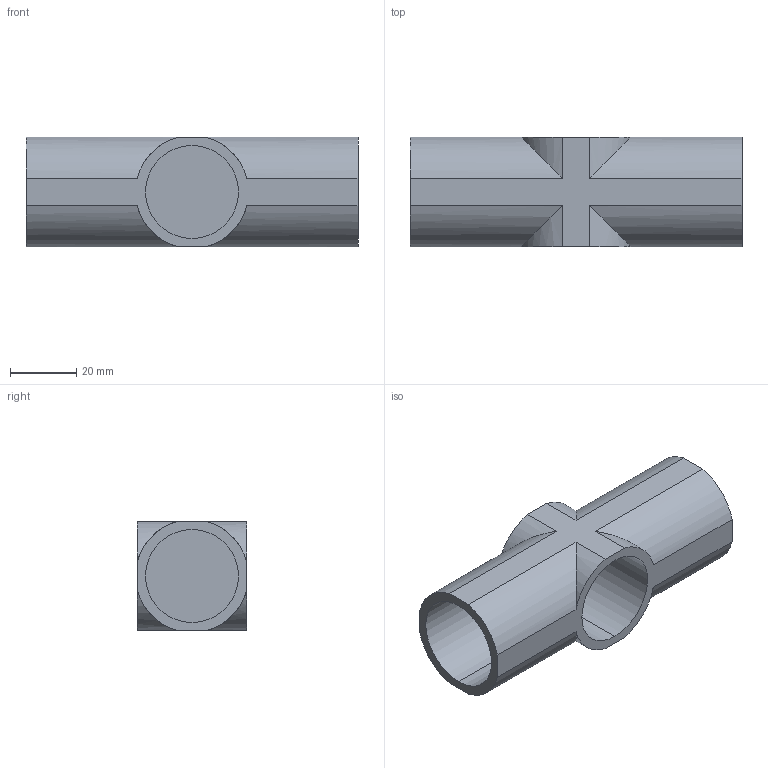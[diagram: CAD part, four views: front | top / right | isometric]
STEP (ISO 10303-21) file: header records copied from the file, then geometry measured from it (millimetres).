
FILE_DESCRIPTION (( 'STEP AP214' ), '1' );
FILE_NAME ('PJ-206A.STEP', '2023-09-12T11:03:40', ( 'catia' ), ( 'HP Inc.' ), 'SwSTEP 2.0', 'SolidWorks 2021', '' );
FILE_SCHEMA (( 'AUTOMOTIVE_DESIGN' ));
Length unit declared in the file: millimetre
Products named in the file (1): PJ-206A
Bounding box: 100 x 33 x 33 mm (x, y, z)
Volume: 38076.5 mm3; surface area: 21078.5 mm2
Topology: 1 solids, 1 shells, 31 faces, 78 edges, 52 vertices
Faces by surface type: cylinder 22, plane 9
Entity records: 974 total; most frequent: CARTESIAN_POINT 186, DIRECTION 162, ORIENTED_EDGE 156, EDGE_CURVE 78, AXIS2_PLACEMENT_3D 60, VERTEX_POINT 52, LINE 42, VECTOR 42
